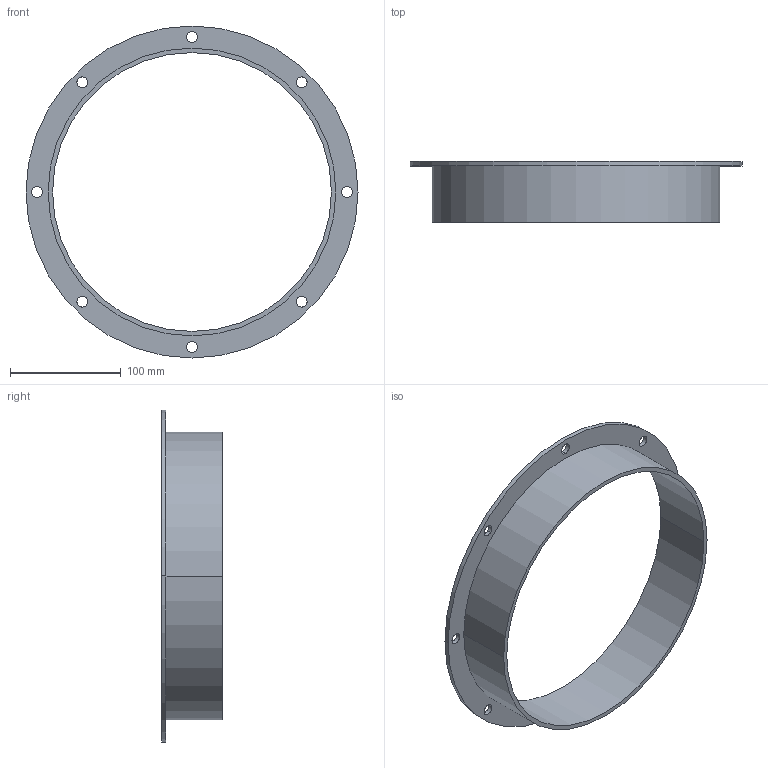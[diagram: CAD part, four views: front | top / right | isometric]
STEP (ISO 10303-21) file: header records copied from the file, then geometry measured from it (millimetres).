
FILE_DESCRIPTION(('STEP AP214'),'1');
FILE_NAME('accessory_5136841300.stp','2017-10-06T13:39:40',('TraceParts'),('TraceParts S.A.'),'Spatial InterOp 3D',' ',' ');
FILE_SCHEMA(('automotive_design'));
Length unit declared in the file: millimetre
Products named in the file (1): accessory_5136841300
Bounding box: 300 x 55 x 300 mm (x, y, z)
Volume: 244792.9 mm3; surface area: 130338.4 mm2
Topology: 1 solids, 1 shells, 25 faces, 66 edges, 44 vertices
Faces by surface type: cylinder 22, plane 3
Entity records: 1056 total; most frequent: DIRECTION 162, CARTESIAN_POINT 136, ORIENTED_EDGE 132, AXIS2_PLACEMENT_3D 70, EDGE_CURVE 66, EDGE_LOOP 44, VERTEX_POINT 44, CIRCLE 44
